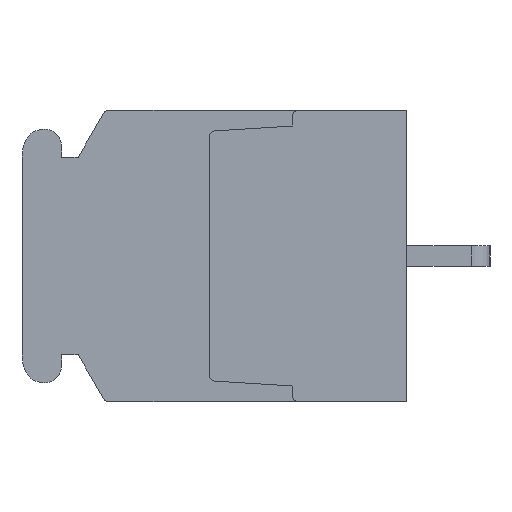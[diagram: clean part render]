
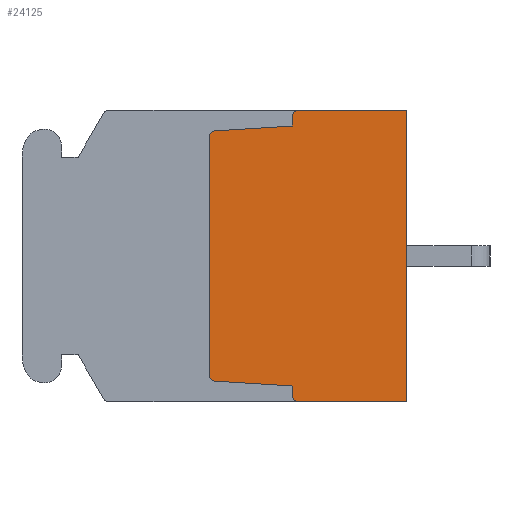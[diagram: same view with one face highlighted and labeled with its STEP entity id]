
A CAD part, left-side view. The second image highlights one B-rep face of the part: STEP entity #24125.
In plain terms, the highlighted planar face has unit normal (-1, 0, 0).
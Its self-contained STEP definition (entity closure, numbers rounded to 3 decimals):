
#1140=CIRCLE('',#25950,0.3);
#1141=CIRCLE('',#25951,0.3);
#1142=CIRCLE('',#25952,0.3);
#1143=CIRCLE('',#25953,0.3);
#2411=VERTEX_POINT('',#34658);
#2412=VERTEX_POINT('',#34660);
#2416=VERTEX_POINT('',#34706);
#2431=VERTEX_POINT('',#34740);
#3414=VERTEX_POINT('',#38339);
#3415=VERTEX_POINT('',#38340);
#3416=VERTEX_POINT('',#38342);
#3417=VERTEX_POINT('',#38344);
#3418=VERTEX_POINT('',#38346);
#3419=VERTEX_POINT('',#38348);
#3420=VERTEX_POINT('',#38351);
#3421=VERTEX_POINT('',#38353);
#4872=VECTOR('',#28545,1.);
#4916=VECTOR('',#28615,1.);
#4934=VECTOR('',#28634,1.);
#6048=VECTOR('',#30812,1.);
#6049=VECTOR('',#30815,1.);
#6050=VECTOR('',#30816,1.);
#6051=VECTOR('',#30821,1.);
#6052=VECTOR('',#30822,1.);
#7546=LINE('',#34659,#4872);
#7590=LINE('',#34741,#4916);
#7608=LINE('',#34776,#4934);
#8722=LINE('',#38341,#6048);
#8723=LINE('',#38345,#6049);
#8724=LINE('',#38347,#6050);
#8725=LINE('',#38352,#6051);
#8726=LINE('',#38354,#6052);
#10681=EDGE_CURVE('',#2411,#2412,#7546,.T.);
#10725=EDGE_CURVE('',#2431,#2416,#7590,.T.);
#10743=EDGE_CURVE('',#2416,#2411,#7608,.T.);
#12256=EDGE_CURVE('',#3414,#3415,#1140,.T.);
#12257=EDGE_CURVE('',#3416,#3414,#8722,.T.);
#12258=EDGE_CURVE('',#3417,#3416,#1141,.T.);
#12259=EDGE_CURVE('',#3418,#3417,#8723,.T.);
#12260=EDGE_CURVE('',#3419,#3418,#8724,.T.);
#12261=EDGE_CURVE('',#2412,#3419,#1142,.T.);
#12262=EDGE_CURVE('',#3420,#2431,#1143,.T.);
#12263=EDGE_CURVE('',#3421,#3420,#8725,.T.);
#12264=EDGE_CURVE('',#3415,#3421,#8726,.T.);
#19044=ORIENTED_EDGE('',*,*,#12256,.F.);
#19045=ORIENTED_EDGE('',*,*,#12257,.F.);
#19046=ORIENTED_EDGE('',*,*,#12258,.F.);
#19047=ORIENTED_EDGE('',*,*,#12259,.F.);
#19048=ORIENTED_EDGE('',*,*,#12260,.F.);
#19049=ORIENTED_EDGE('',*,*,#12261,.F.);
#19050=ORIENTED_EDGE('',*,*,#10681,.F.);
#19051=ORIENTED_EDGE('',*,*,#10743,.F.);
#19052=ORIENTED_EDGE('',*,*,#10725,.F.);
#19053=ORIENTED_EDGE('',*,*,#12262,.F.);
#19054=ORIENTED_EDGE('',*,*,#12263,.F.);
#19055=ORIENTED_EDGE('',*,*,#12264,.F.);
#21313=EDGE_LOOP('',(#19044,#19045,#19046,#19047,#19048,#19049,#19050,#19051,
#19052,#19053,#19054,#19055));
#22769=FACE_BOUND('',#21313,.T.);
#24125=ADVANCED_FACE('',(#22769),#40685,.F.);
#25949=AXIS2_PLACEMENT_3D('',#38337,#30809,$);
#25950=AXIS2_PLACEMENT_3D('',#38338,#30810,#30811);
#25951=AXIS2_PLACEMENT_3D('',#38343,#30813,#30814);
#25952=AXIS2_PLACEMENT_3D('',#38349,#30817,#30818);
#25953=AXIS2_PLACEMENT_3D('',#38350,#30819,#30820);
#28545=DIRECTION('',(0.,1.,0.));
#28615=DIRECTION('',(0.,-1.,0.));
#28634=DIRECTION('',(0.,0.,-1.));
#30809=DIRECTION('',(1.,0.,0.));
#30810=DIRECTION('',(1.,0.,0.));
#30811=DIRECTION('',(0.,0.,-0.3));
#30812=DIRECTION('',(0.,0.,1.));
#30813=DIRECTION('',(1.,0.,0.));
#30814=DIRECTION('',(0.,0.,-0.3));
#30815=DIRECTION('',(0.,0.998,0.062));
#30816=DIRECTION('',(0.,0.,1.));
#30817=DIRECTION('',(1.,0.,0.));
#30818=DIRECTION('',(0.,0.,-0.3));
#30819=DIRECTION('',(1.,0.,0.));
#30820=DIRECTION('',(0.,0.,-0.3));
#30821=DIRECTION('',(0.,0.,1.));
#30822=DIRECTION('',(0.,-0.998,0.062));
#34658=CARTESIAN_POINT('',(0.,0.,-7.));
#34659=CARTESIAN_POINT('',(0.,0.,-7.));
#34660=CARTESIAN_POINT('',(0.,5.2,-7.));
#34706=CARTESIAN_POINT('',(0.,0.,7.));
#34740=CARTESIAN_POINT('',(0.,5.2,7.));
#34741=CARTESIAN_POINT('',(0.,5.2,7.));
#34776=CARTESIAN_POINT('',(0.,0.,7.));
#38337=CARTESIAN_POINT('',(0.,4.541,0.));
#38338=CARTESIAN_POINT('',(0.,9.2,5.718));
#38339=CARTESIAN_POINT('',(0.,9.5,5.718));
#38340=CARTESIAN_POINT('',(0.,9.219,6.018));
#38341=CARTESIAN_POINT('',(0.,9.5,-5.718));
#38342=CARTESIAN_POINT('',(0.,9.5,-5.718));
#38343=CARTESIAN_POINT('',(0.,9.2,-5.718));
#38344=CARTESIAN_POINT('',(0.,9.219,-6.018));
#38345=CARTESIAN_POINT('',(0.,5.5,-6.25));
#38346=CARTESIAN_POINT('',(0.,5.5,-6.25));
#38347=CARTESIAN_POINT('',(0.,5.5,-6.7));
#38348=CARTESIAN_POINT('',(0.,5.5,-6.7));
#38349=CARTESIAN_POINT('',(0.,5.2,-6.7));
#38350=CARTESIAN_POINT('',(0.,5.2,6.7));
#38351=CARTESIAN_POINT('',(0.,5.5,6.7));
#38352=CARTESIAN_POINT('',(0.,5.5,6.25));
#38353=CARTESIAN_POINT('',(0.,5.5,6.25));
#38354=CARTESIAN_POINT('',(0.,9.219,6.018));
#40685=PLANE('',#25949);
